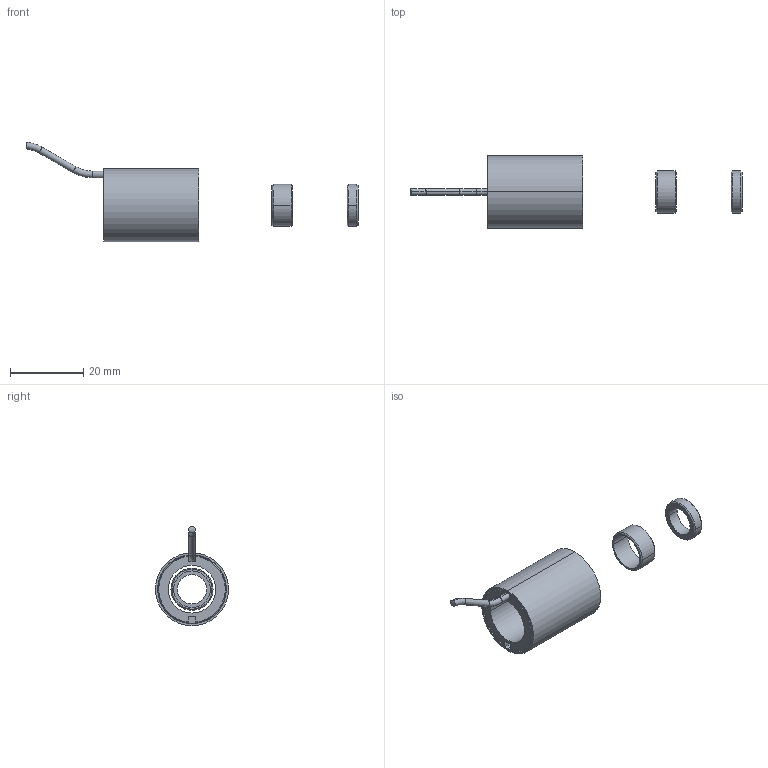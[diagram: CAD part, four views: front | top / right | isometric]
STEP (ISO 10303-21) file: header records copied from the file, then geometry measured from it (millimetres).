
FILE_DESCRIPTION((''),'2;1');
FILE_NAME('0000367456_ASM','2021-03-12T08:47:24',('11000065'),(''),'CREO PARAMETRIC BY PTC INC, 2020044','CREO PARAMETRIC BY PTC INC, 2020044','');
FILE_SCHEMA(('AUTOMOTIVE_DESIGN { 1 0 10303 214 1 1 1 1 }'));
Length unit declared in the file: millimetre
Products named in the file (4): 0000367450; 0000126852; 0000126836; 0000367456_ASM
Assembly tree (3 placements, depth 2):
  0000367456_ASM
    0000367450
    0000126852
    0000126836
Bounding box: 90.69 x 19.95 x 27.19 mm (x, y, z)
Volume: 4936.2 mm3; surface area: 6898.5 mm2
Topology: 4 solids, 4 shells, 62 faces, 143 edges, 93 vertices
Faces by surface type: cylinder 25, plane 19, cone 14, torus 4
Entity records: 6237 total; most frequent: DIRECTION 520, CARTESIAN_POINT 498, PROPERTY_DEFINITION 486, REPRESENTATION 481, PROPERTY_DEFINITION_REPRESENTATION 481, DESCRIPTIVE_REPRESENTATION_ITEM 424, GENERAL_PROPERTY 413, GENERAL_PROPERTY_ASSOCIATION 413
